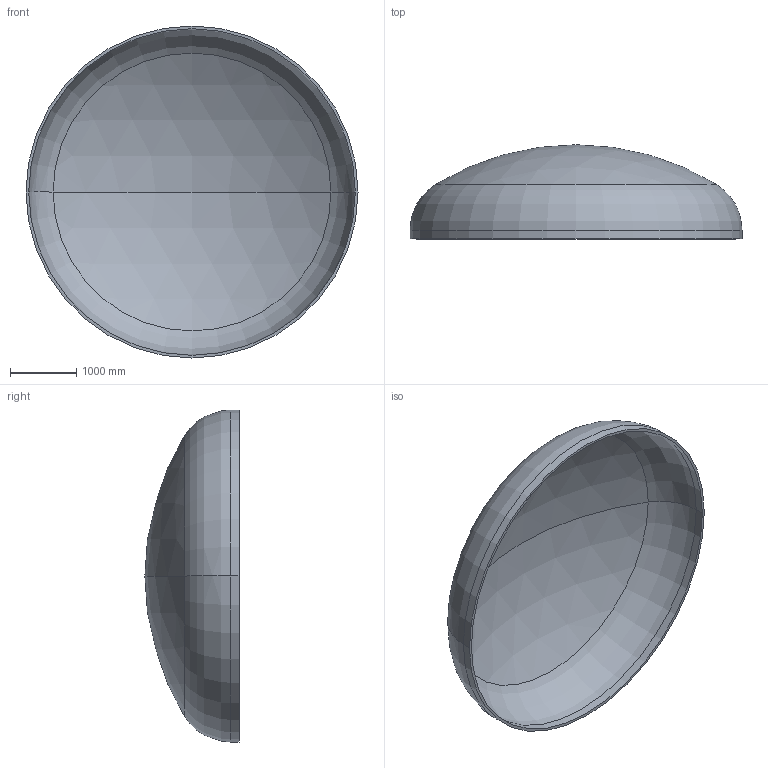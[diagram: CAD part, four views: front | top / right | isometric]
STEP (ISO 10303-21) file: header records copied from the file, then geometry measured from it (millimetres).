
FILE_DESCRIPTION (( 'STEP AP203' ), '1' );
FILE_NAME ('DIN 28013 Korbbogenform_-_Boden DIN 28013 - 5000 x 130 - I - s=41.step', '2016-07-02T00:28:20', ( '' ), ( '' ), 'SwSTEP 2.0', 'SolidWorks 2013', '' );
FILE_SCHEMA (( 'CONFIG_CONTROL_DESIGN' ));
Length unit declared in the file: millimetre
Products named in the file (1): DIN 28013 Korbbogenform_-_Boden DIN 28013 - 5000 x 130 - I - s=41
Bounding box: 5000 x 1417.79 x 5000 mm (x, y, z)
Volume: 1185977193.4 mm3; surface area: 58494790.4 mm2
Topology: 1 solids, 1 shells, 13 faces, 24 edges, 14 vertices
Faces by surface type: torus 4, cylinder 4, sphere 4, plane 1
Entity records: 407 total; most frequent: DIRECTION 72, CARTESIAN_POINT 52, ORIENTED_EDGE 48, AXIS2_PLACEMENT_3D 34, EDGE_CURVE 24, CIRCLE 20, EDGE_LOOP 14, VERTEX_POINT 14
